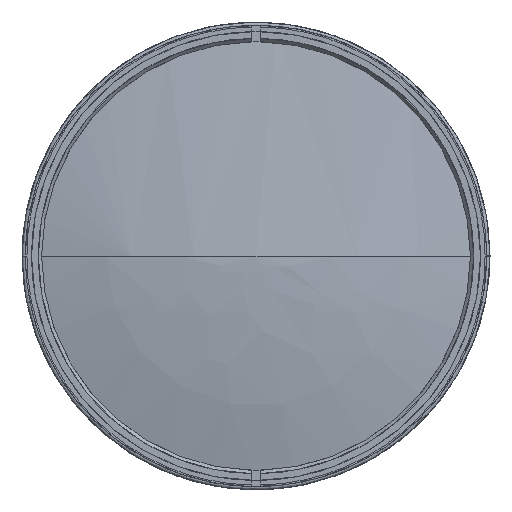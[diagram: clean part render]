
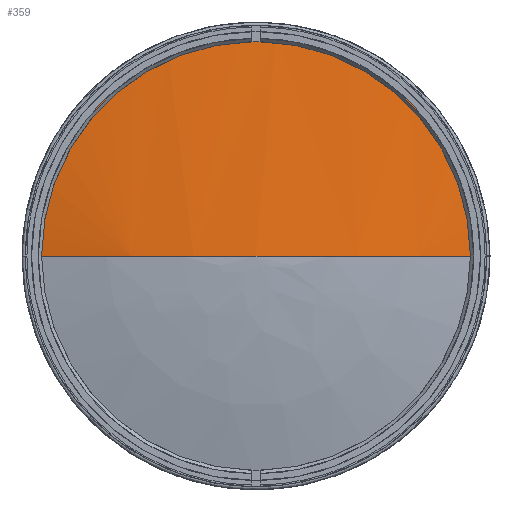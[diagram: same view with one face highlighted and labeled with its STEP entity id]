
A CAD part, left-side view. The second image highlights one B-rep face of the part: STEP entity #359.
In plain terms, the highlighted face is a revolution surface.
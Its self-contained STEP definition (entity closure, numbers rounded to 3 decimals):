
#359 = ADVANCED_FACE('',(#360),#378,.T.);
#360 = FACE_BOUND('',#361,.T.);
#361 = EDGE_LOOP('',(#362,#392,#411,#430));
#362 = ORIENTED_EDGE('',*,*,#363,.F.);
#363 = EDGE_CURVE('',#364,#366,#368,.T.);
#364 = VERTEX_POINT('',#365);
#365 = CARTESIAN_POINT('',(-278.,0.,0.)
  );
#366 = VERTEX_POINT('',#367);
#367 = CARTESIAN_POINT('',(-270.092,-68.5,
    0.));
#368 = SURFACE_CURVE('',#369,(#377),.PCURVE_S1.);
#369 = ( BOUNDED_CURVE() B_SPLINE_CURVE(6,(#370,#371,#372,#373,#374,#375
,#376),.UNSPECIFIED.,.F.,.F.) B_SPLINE_CURVE_WITH_KNOTS((7,7),(0.,1.),
.PIECEWISE_BEZIER_KNOTS.) CURVE() GEOMETRIC_REPRESENTATION_ITEM() 
RATIONAL_B_SPLINE_CURVE((1.001,1.,1.,
    1.,1.,1.,1.001)) 
REPRESENTATION_ITEM('') );
#370 = CARTESIAN_POINT('',(-278.,0.,0.)
  );
#371 = CARTESIAN_POINT('',(-278.,-11.523,
    0.));
#372 = CARTESIAN_POINT('',(-277.47,-23.04,
    0.));
#373 = CARTESIAN_POINT('',(-276.411,-34.523,
    0.));
#374 = CARTESIAN_POINT('',(-274.826,-45.946,
    0.));
#375 = CARTESIAN_POINT('',(-272.718,-57.28,
    0.));
#376 = CARTESIAN_POINT('',(-270.092,-68.5,
    0.));
#377 = PCURVE('',#378,#387);
#378 = SURFACE_OF_REVOLUTION('',#379,#384);
#379 = CIRCLE('',#380,300.64);
#380 = AXIS2_PLACEMENT_3D('',#381,#382,#383);
#381 = CARTESIAN_POINT('',(22.64,0.,0.
    ));
#382 = DIRECTION('',(0.,0.,-1.));
#383 = DIRECTION('',(1.,0.,0.));
#384 = AXIS1_PLACEMENT('',#385,#386);
#385 = CARTESIAN_POINT('',(22.64,0.,0.));
#386 = DIRECTION('',(1.,0.,0.));
#387 = DEFINITIONAL_REPRESENTATION('',(#388),#391);
#388 = B_SPLINE_CURVE_WITH_KNOTS('',1,(#389,#390),.UNSPECIFIED.,.F.,.F.,
  (2,2),(0.,1.),.PIECEWISE_BEZIER_KNOTS.);
#389 = CARTESIAN_POINT('',(6.283,3.142));
#390 = CARTESIAN_POINT('',(6.283,2.912));
#391 = ( GEOMETRIC_REPRESENTATION_CONTEXT(2) 
PARAMETRIC_REPRESENTATION_CONTEXT() REPRESENTATION_CONTEXT('',''
  ) );
#392 = ORIENTED_EDGE('',*,*,#393,.F.);
#393 = EDGE_CURVE('',#394,#364,#396,.T.);
#394 = VERTEX_POINT('',#395);
#395 = CARTESIAN_POINT('',(-278.,0.,0.)
  );
#396 = SURFACE_CURVE('',#397,(#405),.PCURVE_S1.);
#397 = ( BOUNDED_CURVE() B_SPLINE_CURVE(6,(#398,#399,#400,#401,#402,#403
,#404),.UNSPECIFIED.,.F.,.F.) B_SPLINE_CURVE_WITH_KNOTS((7,7),(0.,1.),
.PIECEWISE_BEZIER_KNOTS.) CURVE() GEOMETRIC_REPRESENTATION_ITEM() 
RATIONAL_B_SPLINE_CURVE((1.133,1.036,0.992,
    0.976,0.992,1.036,1.133)) 
REPRESENTATION_ITEM('') );
#398 = CARTESIAN_POINT('',(-278.,0.,0.)
  );
#399 = CARTESIAN_POINT('',(-278.,0.,0.));
#400 = CARTESIAN_POINT('',(-278.,0.,0.)
  );
#401 = CARTESIAN_POINT('',(-278.,0.,0.)
  );
#402 = CARTESIAN_POINT('',(-278.,0.,0.)
  );
#403 = CARTESIAN_POINT('',(-278.,0.,0.)
  );
#404 = CARTESIAN_POINT('',(-278.,0.,0.));
#405 = PCURVE('',#378,#406);
#406 = DEFINITIONAL_REPRESENTATION('',(#407),#410);
#407 = B_SPLINE_CURVE_WITH_KNOTS('',1,(#408,#409),.UNSPECIFIED.,.F.,.F.,
  (2,2),(0.,1.),.PIECEWISE_BEZIER_KNOTS.);
#408 = CARTESIAN_POINT('',(3.142,3.142));
#409 = CARTESIAN_POINT('',(6.283,3.142));
#410 = ( GEOMETRIC_REPRESENTATION_CONTEXT(2) 
PARAMETRIC_REPRESENTATION_CONTEXT() REPRESENTATION_CONTEXT('',''
  ) );
#411 = ORIENTED_EDGE('',*,*,#412,.F.);
#412 = EDGE_CURVE('',#413,#394,#415,.T.);
#413 = VERTEX_POINT('',#414);
#414 = CARTESIAN_POINT('',(-270.092,68.5,
    0.));
#415 = SURFACE_CURVE('',#416,(#424),.PCURVE_S1.);
#416 = ( BOUNDED_CURVE() B_SPLINE_CURVE(6,(#417,#418,#419,#420,#421,#422
,#423),.UNSPECIFIED.,.F.,.F.) B_SPLINE_CURVE_WITH_KNOTS((7,7),(0.,1.),
.PIECEWISE_BEZIER_KNOTS.) CURVE() GEOMETRIC_REPRESENTATION_ITEM() 
RATIONAL_B_SPLINE_CURVE((1.001,1.,1.,
    1.,1.,1.,1.001)) 
REPRESENTATION_ITEM('') );
#417 = CARTESIAN_POINT('',(-270.092,68.5,
    0.));
#418 = CARTESIAN_POINT('',(-272.718,57.28,
    0.));
#419 = CARTESIAN_POINT('',(-274.826,45.946,
    0.));
#420 = CARTESIAN_POINT('',(-276.411,34.523,
    0.));
#421 = CARTESIAN_POINT('',(-277.47,23.04,
    0.));
#422 = CARTESIAN_POINT('',(-278.,11.523,
    0.));
#423 = CARTESIAN_POINT('',(-278.,0.,0.)
  );
#424 = PCURVE('',#378,#425);
#425 = DEFINITIONAL_REPRESENTATION('',(#426),#429);
#426 = B_SPLINE_CURVE_WITH_KNOTS('',1,(#427,#428),.UNSPECIFIED.,.F.,.F.,
  (2,2),(0.,1.),.PIECEWISE_BEZIER_KNOTS.);
#427 = CARTESIAN_POINT('',(3.142,2.912));
#428 = CARTESIAN_POINT('',(3.142,3.142));
#429 = ( GEOMETRIC_REPRESENTATION_CONTEXT(2) 
PARAMETRIC_REPRESENTATION_CONTEXT() REPRESENTATION_CONTEXT('',''
  ) );
#430 = ORIENTED_EDGE('',*,*,#431,.F.);
#431 = EDGE_CURVE('',#366,#413,#432,.T.);
#432 = SURFACE_CURVE('',#433,(#444),.PCURVE_S1.);
#433 = B_SPLINE_CURVE_WITH_KNOTS('',9,(#434,#435,#436,#437,#438,#439,
    #440,#441,#442,#443),.UNSPECIFIED.,.F.,.F.,(10,10),(0.,1.),
  .PIECEWISE_BEZIER_KNOTS.);
#434 = CARTESIAN_POINT('',(-270.092,-68.5,
    0.));
#435 = CARTESIAN_POINT('',(-270.092,-68.5,
    23.911));
#436 = CARTESIAN_POINT('',(-270.092,-59.11,
    47.822));
#437 = CARTESIAN_POINT('',(-270.092,-40.33,
    67.518));
#438 = CARTESIAN_POINT('',(-270.092,-14.368,
    78.791));
#439 = CARTESIAN_POINT('',(-270.092,14.368,
    78.791));
#440 = CARTESIAN_POINT('',(-270.092,40.33,
    67.518));
#441 = CARTESIAN_POINT('',(-270.092,59.11,
    47.822));
#442 = CARTESIAN_POINT('',(-270.092,68.5,
    23.911));
#443 = CARTESIAN_POINT('',(-270.092,68.5,
    0.));
#444 = PCURVE('',#378,#445);
#445 = DEFINITIONAL_REPRESENTATION('',(#446),#449);
#446 = B_SPLINE_CURVE_WITH_KNOTS('',1,(#447,#448),.UNSPECIFIED.,.F.,.F.,
  (2,2),(0.,1.),.PIECEWISE_BEZIER_KNOTS.);
#447 = CARTESIAN_POINT('',(6.283,2.912));
#448 = CARTESIAN_POINT('',(3.142,2.912));
#449 = ( GEOMETRIC_REPRESENTATION_CONTEXT(2) 
PARAMETRIC_REPRESENTATION_CONTEXT() REPRESENTATION_CONTEXT('',''
  ) );
